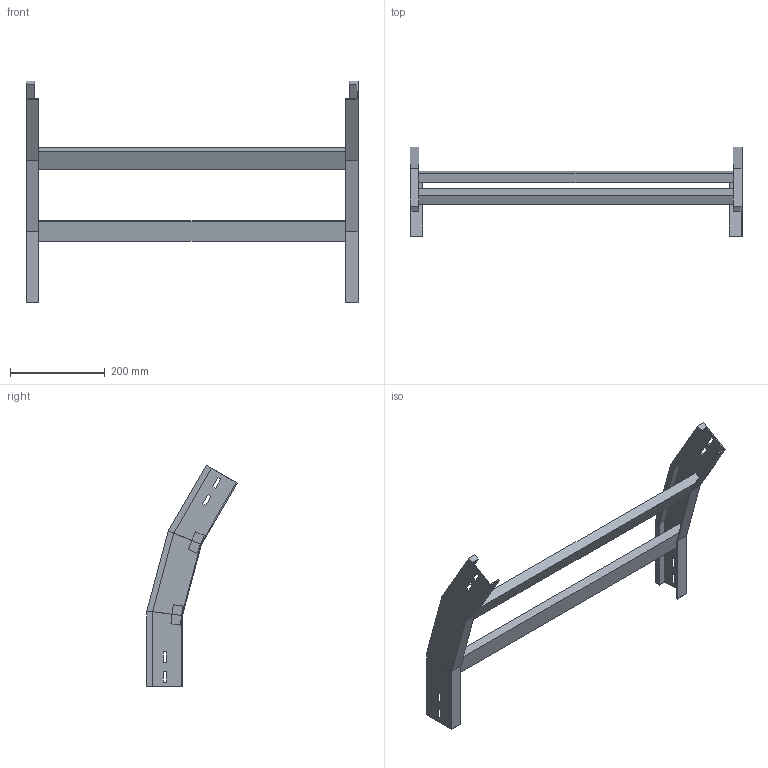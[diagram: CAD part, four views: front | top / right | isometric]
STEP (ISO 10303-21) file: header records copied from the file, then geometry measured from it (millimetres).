
FILE_DESCRIPTION (( 'STEP AP214' ), '1' );
FILE_NAME ('A2_35B3C700.step', '2025-02-21T14:50:05', ( '' ), ( '' ), 'SwSTEP 2.0', 'SolidWorks 2023', '' );
FILE_SCHEMA (( 'AUTOMOTIVE_DESIGN' ));
Length unit declared in the file: millimetre
Products named in the file (3): TRAVERSINO_700; LONGH.DISCESA_30°_H75_R300; A2_35B3C700
Assembly tree (5 placements, depth 2):
  A2_35B3C700
    LONGH.DISCESA_30°_H75_R300  x2
    TRAVERSINO_700  x3
Bounding box: 700 x 190.12 x 467.12 mm (x, y, z)
Volume: 2065466.1 mm3; surface area: 480760.5 mm2
Topology: 5 solids, 5 shells, 102 faces, 244 edges, 152 vertices
Faces by surface type: plane 102
Entity records: 1480 total; most frequent: CARTESIAN_POINT 244, ORIENTED_EDGE 232, DIRECTION 228, EDGE_CURVE 116, LINE 116, VECTOR 116, VERTEX_POINT 72, EDGE_LOOP 56
